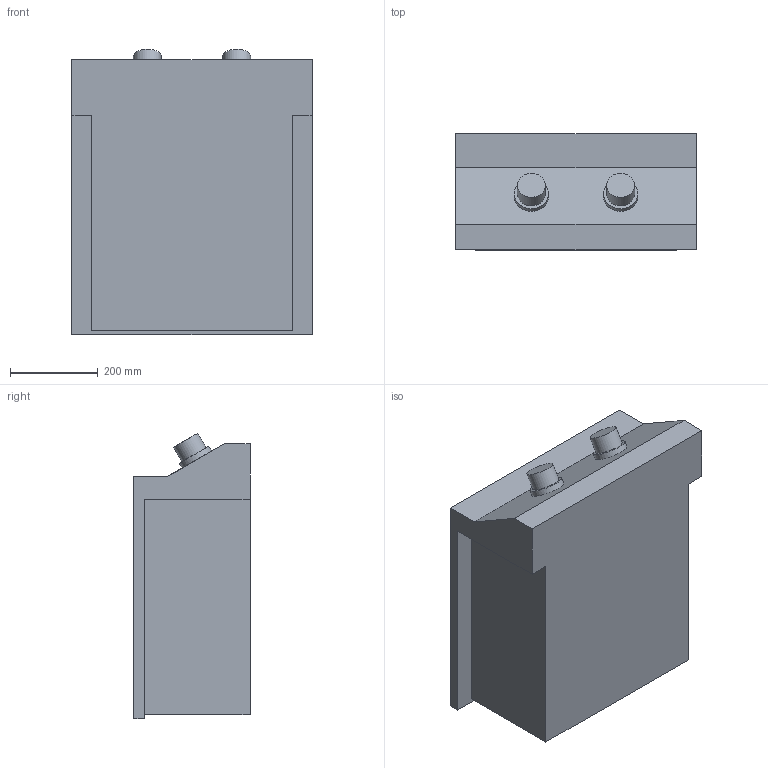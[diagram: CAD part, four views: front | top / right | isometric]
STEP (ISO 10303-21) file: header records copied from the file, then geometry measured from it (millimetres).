
FILE_DESCRIPTION (( 'STEP AP203' ), '1' );
FILE_NAME ('BIB10IR.STEP', '2020-04-24T15:50:13', ( '8DNKR52' ), ( 'Microsoft' ), 'SwSTEP 2.0', 'SolidWorks 2019', '' );
FILE_SCHEMA (( 'CONFIG_CONTROL_DESIGN' ));
Length unit declared in the file: inch
Products named in the file (1): BIB10IR
Bounding box: 546.1 x 264.08 x 648.99 mm (x, y, z)
Volume: 73102194.7 mm3; surface area: 1268237.9 mm2
Topology: 1 solids, 1 shells, 22 faces, 49 edges, 33 vertices
Faces by surface type: plane 18, cylinder 4
Full cylindrical faces by diameter (mm): 63.5 x2, 77.788 x2
Entity records: 659 total; most frequent: CARTESIAN_POINT 99, DIRECTION 98, ORIENTED_EDGE 88, EDGE_CURVE 44, VECTOR 36, LINE 36, VERTEX_POINT 32, AXIS2_PLACEMENT_3D 31
